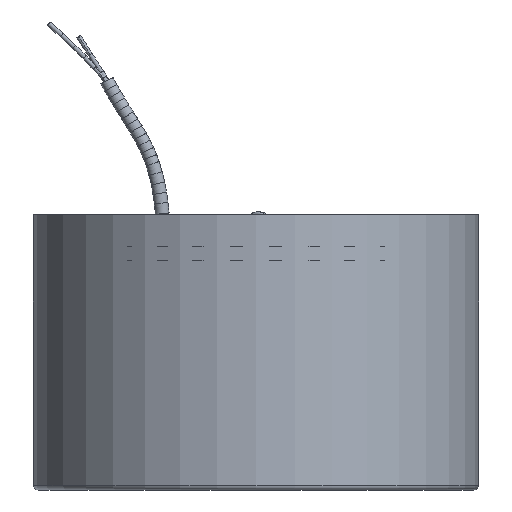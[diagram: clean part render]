
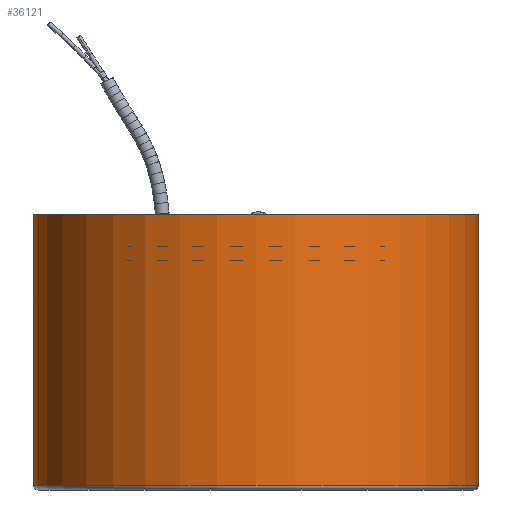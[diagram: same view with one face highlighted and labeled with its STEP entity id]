
A CAD part, front view. The second image highlights one B-rep face of the part: STEP entity #36121.
In plain terms, the highlighted cylindrical face has radius 97.05 mm (diameter 194.1 mm), a partial arc.
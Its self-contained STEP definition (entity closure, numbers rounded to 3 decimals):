
#1305 = LINE ( 'NONE', #14094, #28497 ) ;
#2692 = VECTOR ( 'NONE', #40073, 1000. ) ;
#2914 = FACE_OUTER_BOUND ( 'NONE', #41460, .T. ) ;
#3520 = ORIENTED_EDGE ( 'NONE', *, *, #35939, .F. ) ;
#5374 = EDGE_CURVE ( 'NONE', #24609, #36416, #16941, .T. ) ;
#5746 = DIRECTION ( 'NONE',  ( 0., 0., 1. ) ) ;
#7216 = AXIS2_PLACEMENT_3D ( 'NONE', #17546, #45956, #11105 ) ;
#8293 = CARTESIAN_POINT ( 'NONE',  ( 317.113, 352.185, -120. ) ) ;
#10159 = CARTESIAN_POINT ( 'NONE',  ( 317.113, 352.185, -118. ) ) ;
#10452 = CARTESIAN_POINT ( 'NONE',  ( 123.013, 352.185, 0. ) ) ;
#11105 = DIRECTION ( 'NONE',  ( 1., 0., 0. ) ) ;
#13106 = DIRECTION ( 'NONE',  ( 0., 0., 1. ) ) ;
#13233 = AXIS2_PLACEMENT_3D ( 'NONE', #30621, #13106, #30767 ) ;
#14094 = CARTESIAN_POINT ( 'NONE',  ( 123.013, 352.185, -120. ) ) ;
#14798 = VERTEX_POINT ( 'NONE', #25968 ) ;
#16941 = CIRCLE ( 'NONE', #7216, 97.05 ) ;
#17312 = DIRECTION ( 'NONE',  ( 0., 0., 1. ) ) ;
#17546 = CARTESIAN_POINT ( 'NONE',  ( 220.063, 352.185, -118. ) ) ;
#23373 = EDGE_CURVE ( 'NONE', #36416, #14798, #33218, .T. ) ;
#24356 = ORIENTED_EDGE ( 'NONE', *, *, #26437, .F. ) ;
#24551 = CYLINDRICAL_SURFACE ( 'NONE', #33098, 97.05 ) ;
#24609 = VERTEX_POINT ( 'NONE', #30028 ) ;
#25968 = CARTESIAN_POINT ( 'NONE',  ( 317.113, 352.185, 0. ) ) ;
#26437 = EDGE_CURVE ( 'NONE', #35422, #14798, #33687, .T. ) ;
#28175 = ORIENTED_EDGE ( 'NONE', *, *, #5374, .T. ) ;
#28497 = VECTOR ( 'NONE', #17312, 1000. ) ;
#30028 = CARTESIAN_POINT ( 'NONE',  ( 123.013, 352.185, -118. ) ) ;
#30621 = CARTESIAN_POINT ( 'NONE',  ( 220.063, 352.185, 0. ) ) ;
#30767 = DIRECTION ( 'NONE',  ( 1., 0., 0. ) ) ;
#32108 = ORIENTED_EDGE ( 'NONE', *, *, #23373, .T. ) ;
#33098 = AXIS2_PLACEMENT_3D ( 'NONE', #42835, #5746, #33766 ) ;
#33218 = LINE ( 'NONE', #8293, #2692 ) ;
#33687 = CIRCLE ( 'NONE', #13233, 97.05 ) ;
#33766 = DIRECTION ( 'NONE',  ( -1., 0., 0. ) ) ;
#35422 = VERTEX_POINT ( 'NONE', #10452 ) ;
#35939 = EDGE_CURVE ( 'NONE', #24609, #35422, #1305, .T. ) ;
#36121 = ADVANCED_FACE ( 'NONE', ( #2914 ), #24551, .T. ) ;
#36416 = VERTEX_POINT ( 'NONE', #10159 ) ;
#40073 = DIRECTION ( 'NONE',  ( 0., 0., 1. ) ) ;
#41460 = EDGE_LOOP ( 'NONE', ( #28175, #32108, #24356, #3520 ) ) ;
#42835 = CARTESIAN_POINT ( 'NONE',  ( 220.063, 352.185, -120. ) ) ;
#45956 = DIRECTION ( 'NONE',  ( 0., 0., 1. ) ) ;
